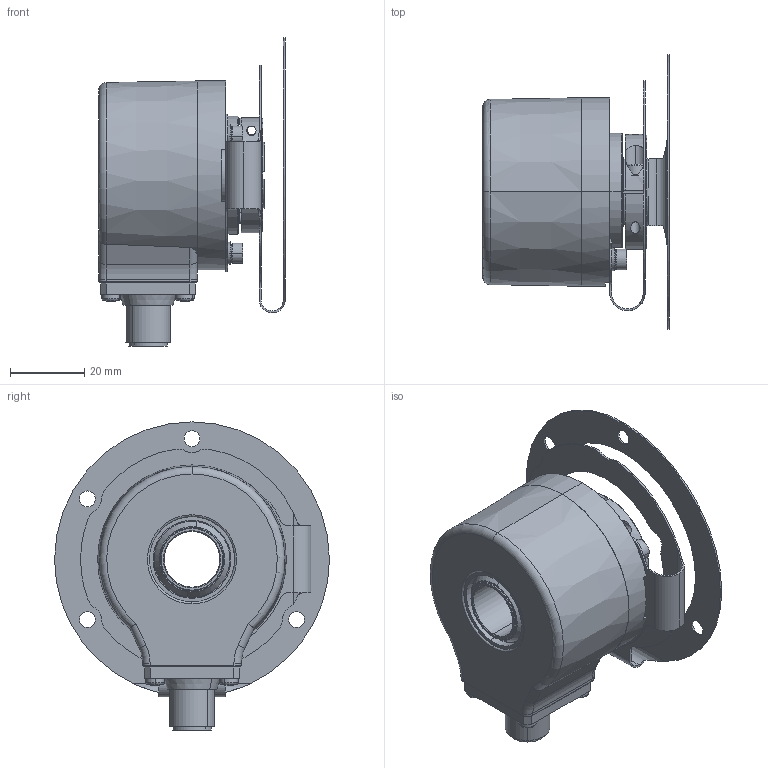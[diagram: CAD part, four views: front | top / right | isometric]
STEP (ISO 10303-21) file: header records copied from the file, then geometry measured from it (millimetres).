
FILE_DESCRIPTION (( 'STEP AP214' ), '1' );
FILE_NAME ('5020.88X2.XXXX.STEP', '2008-02-15T12:33:48', ( 'admin' ), ( 'Fritz Kübler GmbH' ), 'SwSTEP 2.0', 'SolidWorks 2007', '' );
FILE_SCHEMA (( 'AUTOMOTIVE_DESIGN' ));
Length unit declared in the file: millimetre
Products named in the file (1): 5020.88X2.XXXX
Bounding box: 50.2 x 74 x 83 mm (x, y, z)
Surface area: 26414.7 mm2 (no closed solid volume)
Topology: 0 solids, 25 shells, 369 faces, 1095 edges, 725 vertices
Faces by surface type: cylinder 149, plane 125, cone 47, sphere 24, torus 20, bspline 4
Entity records: 16705 total; most frequent: CARTESIAN_POINT 2809, DIRECTION 2192, ORIENTED_EDGE 1881, EDGE_CURVE 1059, AXIS2_PLACEMENT_3D 866, VERTEX_POINT 709, CIRCLE 500, VECTOR 460
